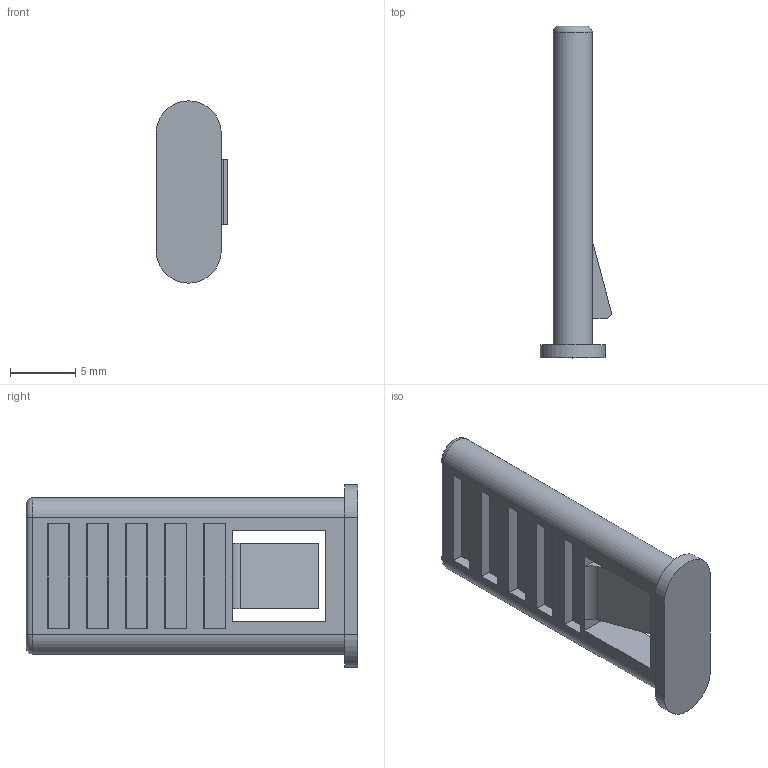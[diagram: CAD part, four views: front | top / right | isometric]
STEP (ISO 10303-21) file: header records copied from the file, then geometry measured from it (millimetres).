
FILE_DESCRIPTION((''),'2;1');
FILE_NAME('C:\Uebbing\PARAMETERKETTEN\KOLIBRI\Kol_30_050_0\PZ 30 Stecksteg.stp','2011-11-02T11:36:41',('Uebbing'),(''),'Autodesk Inventor 10','Autodesk Inventor 10','');
FILE_SCHEMA(('AUTOMOTIVE_DESIGN { 1 0 10303 214 1 1 1 1 }'));
Length unit declared in the file: millimetre
Products named in the file (1): PZ 30 Stecksteg
Bounding box: 5.51 x 25.48 x 14 mm (x, y, z)
Volume: 703.5 mm3; surface area: 1053.6 mm2
Topology: 1 solids, 1 shells, 82 faces, 200 edges, 132 vertices
Faces by surface type: plane 59, bspline 16, cylinder 6, torus 1
Entity records: 2448 total; most frequent: CARTESIAN_POINT 518, ORIENTED_EDGE 400, DIRECTION 350, EDGE_CURVE 200, VECTOR 184, LINE 184, VERTEX_POINT 132, EDGE_LOOP 96
